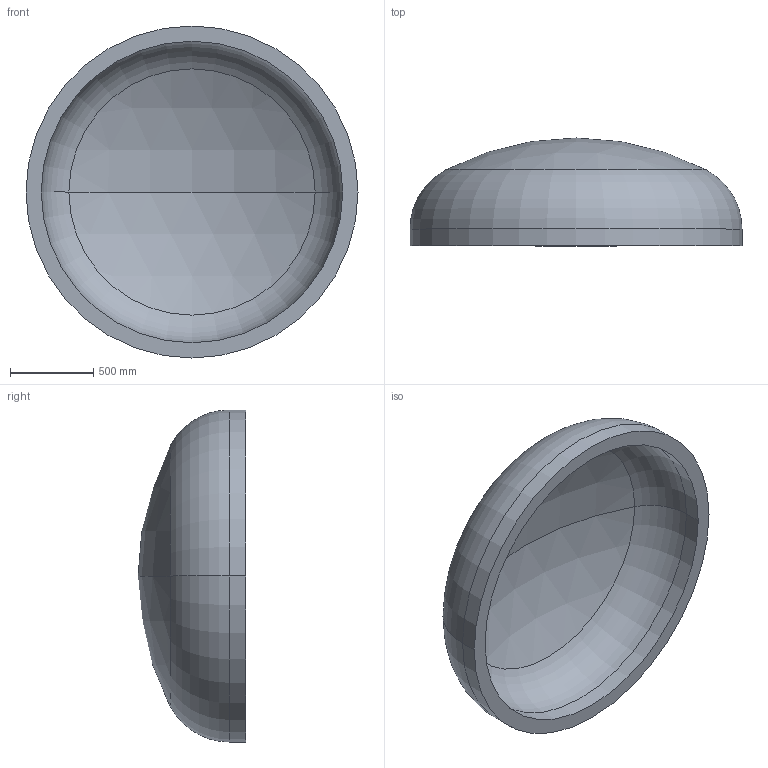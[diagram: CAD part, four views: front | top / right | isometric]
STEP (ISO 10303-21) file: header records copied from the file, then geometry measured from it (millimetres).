
FILE_DESCRIPTION (( 'STEP AP203' ), '1' );
FILE_NAME ('DIN 28013 Korbbogenform_-_Boden DIN 28013 - 2000 x 100 - I - s=92.step', '2016-07-01T14:07:34', ( '' ), ( '' ), 'SwSTEP 2.0', 'SolidWorks 2013', '' );
FILE_SCHEMA (( 'CONFIG_CONTROL_DESIGN' ));
Length unit declared in the file: millimetre
Products named in the file (1): DIN 28013 Korbbogenform_-_Boden DIN 28013 - 2000 x 100 - I - s=92
Bounding box: 2000 x 648.98 x 2000 mm (x, y, z)
Volume: 432893707.4 mm3; surface area: 9979919.7 mm2
Topology: 1 solids, 1 shells, 13 faces, 24 edges, 14 vertices
Faces by surface type: torus 4, cylinder 4, sphere 4, plane 1
Entity records: 407 total; most frequent: DIRECTION 72, CARTESIAN_POINT 52, ORIENTED_EDGE 48, AXIS2_PLACEMENT_3D 34, EDGE_CURVE 24, CIRCLE 20, EDGE_LOOP 14, VERTEX_POINT 14
